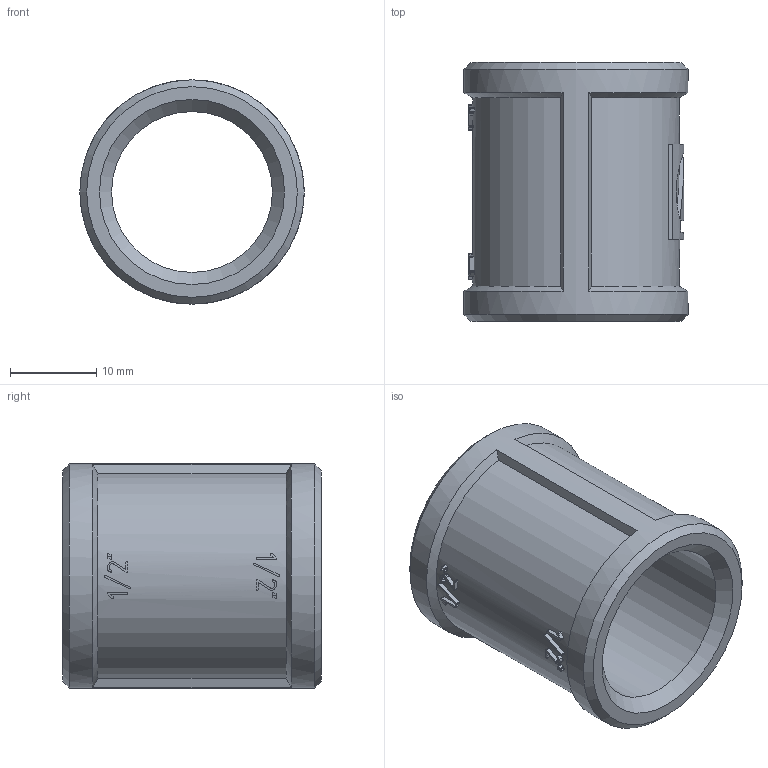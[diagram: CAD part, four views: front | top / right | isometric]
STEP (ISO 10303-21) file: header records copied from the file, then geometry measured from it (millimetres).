
FILE_DESCRIPTION(('STEP AP203'), '1');
FILE_NAME('ﾂﾐ.713461.001 - VTr.270.N.0004 ﾌ G1-2', '2024-06-27T12:52:59', ('Boss'), (''), 'C3D Converter', 'C3D Toolkit', '');
FILE_SCHEMA(('CONFIG_CONTROL_DESIGN'));
Length unit declared in the file: millimetre
Products named in the file (1): ВР.713461.001
Bounding box: 26 x 30 x 26 mm (x, y, z)
Volume: 6000.5 mm3; surface area: 4648.5 mm2
Topology: 1 solids, 1 shells, 208 faces, 572 edges, 380 vertices
Faces by surface type: extrusion 116, plane 66, cylinder 18, cone 8
Full cylindrical faces by diameter (mm): 18.632 x1, 26 x1
Entity records: 8665 total; most frequent: CARTESIAN_POINT 4041, ORIENTED_EDGE 1130, DIRECTION 583, EDGE_CURVE 565, VERTEX_POINT 380, B_SPLINE_CURVE_WITH_KNOTS 358, VECTOR 321, EDGE_LOOP 231
